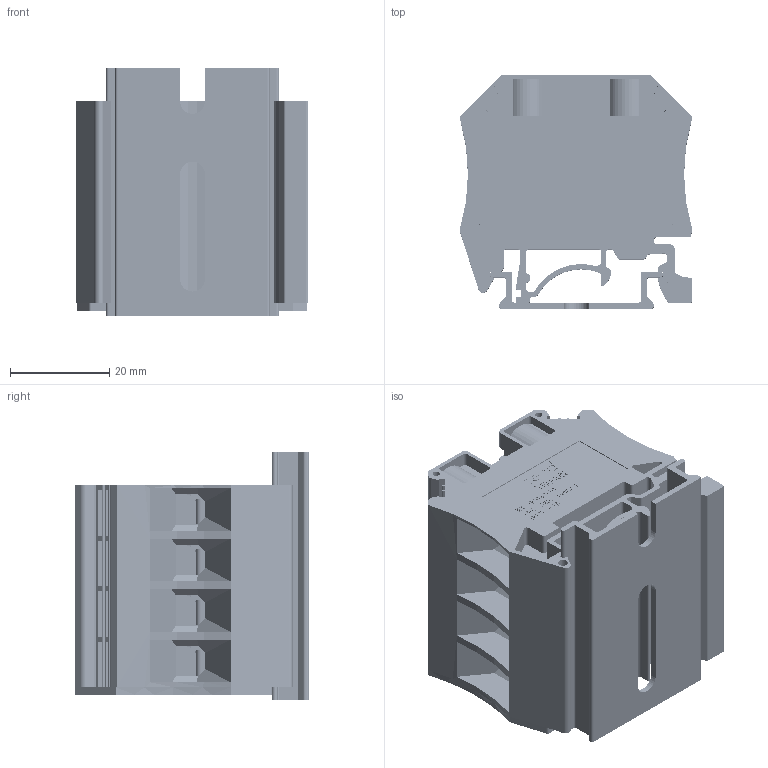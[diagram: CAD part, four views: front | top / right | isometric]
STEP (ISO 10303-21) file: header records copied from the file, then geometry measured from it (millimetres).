
FILE_DESCRIPTION((''),'2;1');
FILE_NAME('ASM0002_ASM','2016-06-13T',('Administrator'),(''),'PRO/ENGINEER BY PARAMETRIC TECHNOLOGY CORPORATION, 2012360','PRO/ENGINEER BY PARAMETRIC TECHNOLOGY CORPORATION, 2012360','');
FILE_SCHEMA(('CONFIG_CONTROL_DESIGN'));
Products named in the file (1): ASM0002_ASM
Bounding box: 47 x 47.2 x 50 mm (x, y, z)
Volume: 35835.3 mm3; surface area: 54098.2 mm2
Topology: 1 solids, 42 shells, 8567 faces, 24538 edges, 16155 vertices
Faces by surface type: plane 7419, cylinder 850, bspline 232, cone 50, torus 16
Entity records: 317505 total; most frequent: CARTESIAN_POINT 95328, ORIENTED_EDGE 49076, DIRECTION 41169, EDGE_CURVE 24538, VECTOR 21901, LINE 21901, VERTEX_POINT 16155, AXIS2_PLACEMENT_3D 9634
